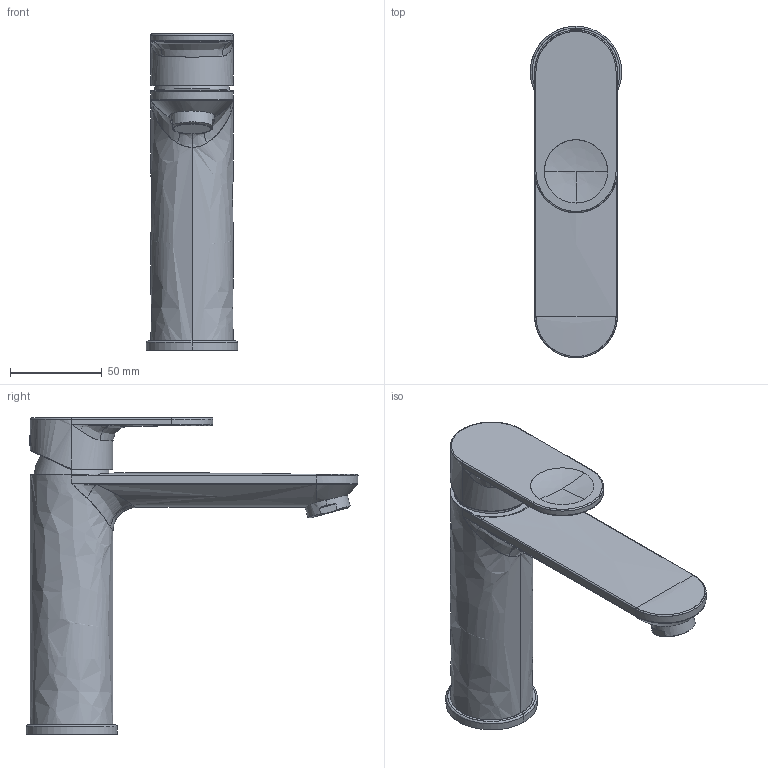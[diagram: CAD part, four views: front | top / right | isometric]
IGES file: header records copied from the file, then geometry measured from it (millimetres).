
Global section: file name: D:\01_Planungsdaten\_news19\Armaturen\B3\B31020002010\3D\B31020002010.igs; native system: Rhinoceros ( Sep 13 2016 ); preprocessor: Trout Lake IGES 012 Sep 13 2016; date: 190225.131002; units: millimetre
Bounding box: 49.8 x 180.9 x 172.35 mm (x, y, z)
Surface area: 53299.7 mm2 (no closed solid volume)
Topology: 0 solids, 0 shells, 116 faces, 1086 edges, 1083 vertices
Faces by surface type: bspline 116
